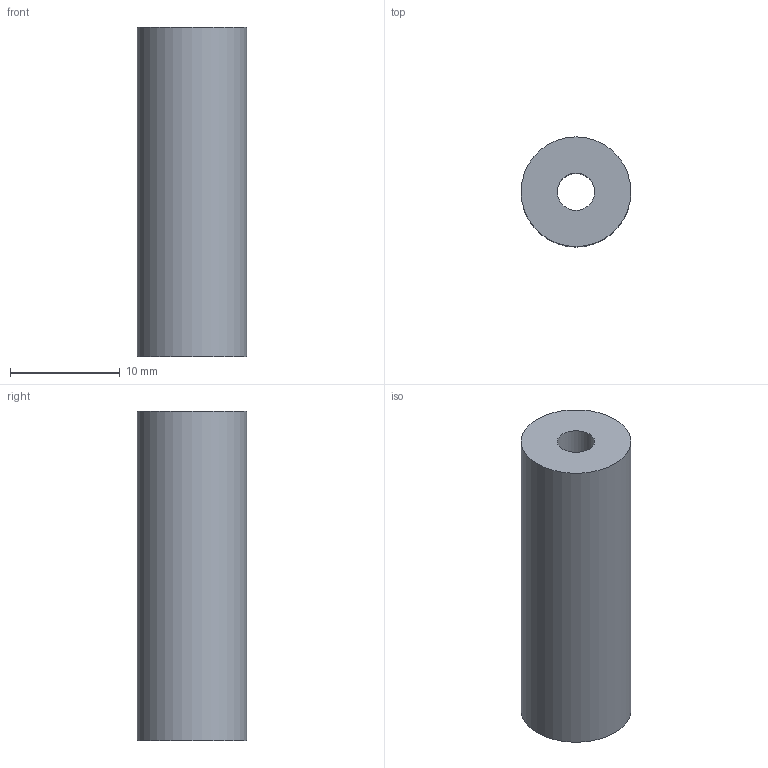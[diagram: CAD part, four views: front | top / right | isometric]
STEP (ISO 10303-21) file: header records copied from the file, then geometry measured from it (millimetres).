
FILE_DESCRIPTION(('Open CASCADE Model'),'2;1');
FILE_NAME('Open CASCADE Shape Model','2026-10-05T13:03:05',('Author'),( 'Open CASCADE'),'Open CASCADE STEP processor 7.9','Open CASCADE 7.9' ,'Unknown');
FILE_SCHEMA(('AUTOMOTIVE_DESIGN { 1 0 10303 214 1 1 1 1 }'));
Length unit declared in the file: millimetre
Products named in the file (1): Open CASCADE STEP translator 7.9 4
Bounding box: 10 x 10 x 30 mm (x, y, z)
Volume: 2083.8 mm3; surface area: 1401.8 mm2
Topology: 1 solids, 1 shells, 4 faces, 6 edges, 4 vertices
Faces by surface type: cylinder 2, plane 2
Full cylindrical faces by diameter (mm): 3.4 x1, 10 x1
Entity records: 186 total; most frequent: DIRECTION 32, CARTESIAN_POINT 27, ORIENTED_EDGE 12, PCURVE 12, DEFINITIONAL_REPRESENTATION 12, LINE 10, VECTOR 10, AXIS2_PLACEMENT_3D 9
